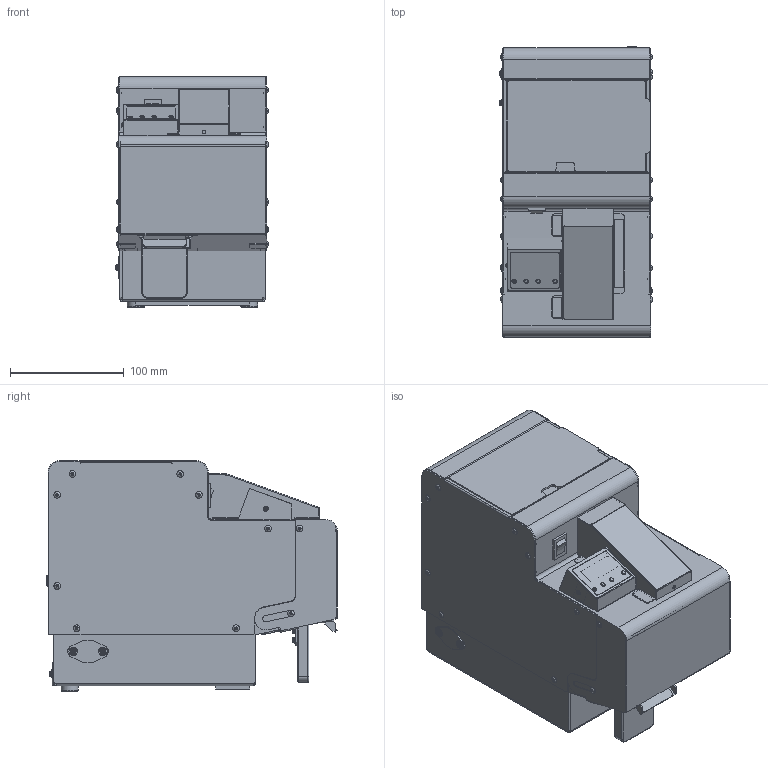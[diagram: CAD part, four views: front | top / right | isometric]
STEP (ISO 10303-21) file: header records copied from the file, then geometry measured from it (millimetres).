
FILE_DESCRIPTION(/* description */ (''),/* implementation_level */ '2;1');
FILE_NAME(/* name */ '',/* time_stamp */ '2024-07-30T13:59:46+09:00',/* author */ ('oikawa'),/* organization */ (''),/* preprocessor_version */ 'ST-DEVELOPER v20',/* originating_system */ 'Autodesk Inventor 2025',/* authorisation */ '');
FILE_SCHEMA (('CONFIG_CONTROL_DESIGN'));
Products named in the file (1): NJ66020_供給機ﾕﾆｯﾄ：FM-36B
_簡略化_2
Bounding box: 134.45 x 255.09 x 202.5 mm (x, y, z)
Volume: 5217912.6 mm3; surface area: 355583.2 mm2
Topology: 2 solids, 30 shells, 2087 faces, 5375 edges, 3529 vertices
Faces by surface type: plane 1415, cylinder 591, sphere 37, torus 30, cone 9, bspline 5
Full cylindrical faces by diameter (mm): 0.5 x8, 1 x12, 2 x6, 2.113 x5, 2.5 x2, 2.6 x42, 2.7 x5, 2.8 x2, 3 x19, 3.1 x3, 3.5 x1, 4 x7, 4.5 x13, 5 x4, 5.2 x12, 5.7 x4, 5.9 x34, 6 x2, 6.1 x1, 6.6 x1, 7 x3, 7.5 x8, 8 x1, 9 x2, 12 x1, 15 x2, 18 x1
Entity records: 77354 total; most frequent: CARTESIAN_POINT 22332, DIRECTION 11182, ORIENTED_EDGE 10752, EDGE_CURVE 5376, AXIS2_PLACEMENT_3D 3795, LINE 3592, VECTOR 3592, VERTEX_POINT 3529
